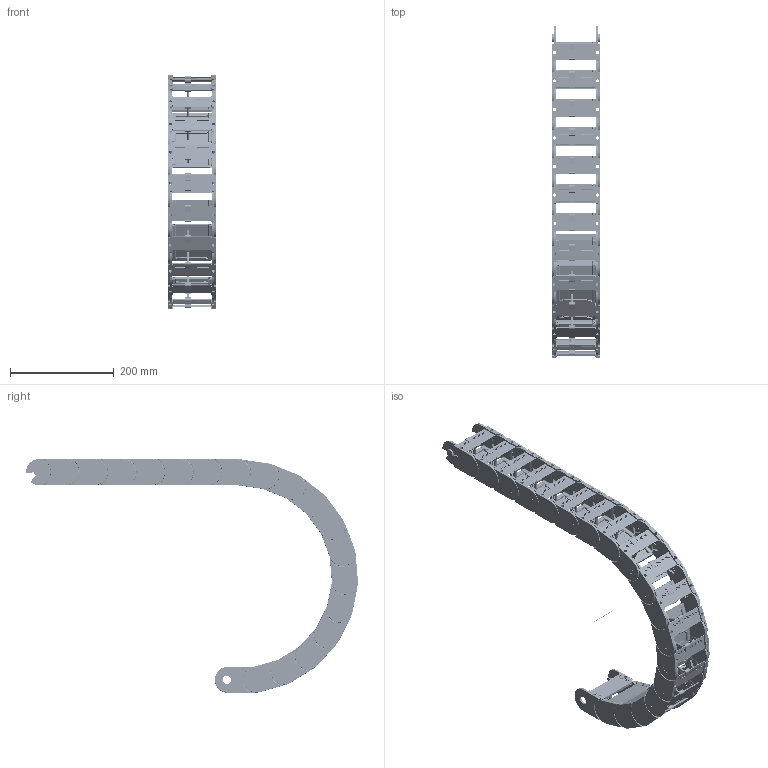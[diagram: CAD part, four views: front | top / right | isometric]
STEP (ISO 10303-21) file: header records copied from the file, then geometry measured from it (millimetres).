
FILE_DESCRIPTION((''),'2;1');
FILE_NAME('C:\Uebbing\PARAMETERKETTEN\KOLIBRI\Kol_50_095_2\KOLIBRI 50_095_2_R200.stp','2012-03-05T09:48:00',('Uebbing'),(''),'Autodesk Inventor 10','Autodesk Inventor 10','');
FILE_SCHEMA(('AUTOMOTIVE_DESIGN { 1 0 10303 214 1 1 1 1 }'));
Length unit declared in the file: millimetre
Products named in the file (6): KOLIBRI 50_095_2_PARAMETRISCH; Achse; Kol_50_095_2; Kol_50_095_2_Lasche; Kol_50_95_0_Klappsteg; Kol_50_095_2 PZ 
Assembly tree (23 placements, depth 3):
  KOLIBRI 50_095_2_PARAMETRISCH
    Achse
    Kol_50_095_2  x19
      Kol_50_095_2_Lasche
      Kol_50_95_0_Klappsteg
      Kol_50_095_2 PZ 
Bounding box: 92.88 x 639.21 x 450.25 mm (x, y, z)
Volume: 1120393.1 mm3; surface area: 756163.8 mm2
Topology: 58 solids, 58 shells, 16476 faces, 43419 edges, 28313 vertices
Faces by surface type: plane 8837, cylinder 3630, bspline 3515, torus 380, sphere 76, cone 38
Full cylindrical faces by diameter (mm): 1 x1, 2.021 x19, 3.549 x19, 4 x19, 4.036 x19, 4.221 x38, 6.231 x19, 16.08 x19, 16.18 x19
Entity records: 31742 total; most frequent: CARTESIAN_POINT 10430, ORIENTED_EDGE 4498, DIRECTION 4157, EDGE_CURVE 2249, VECTOR 1599, LINE 1599, VERTEX_POINT 1478, AXIS2_PLACEMENT_3D 1279
